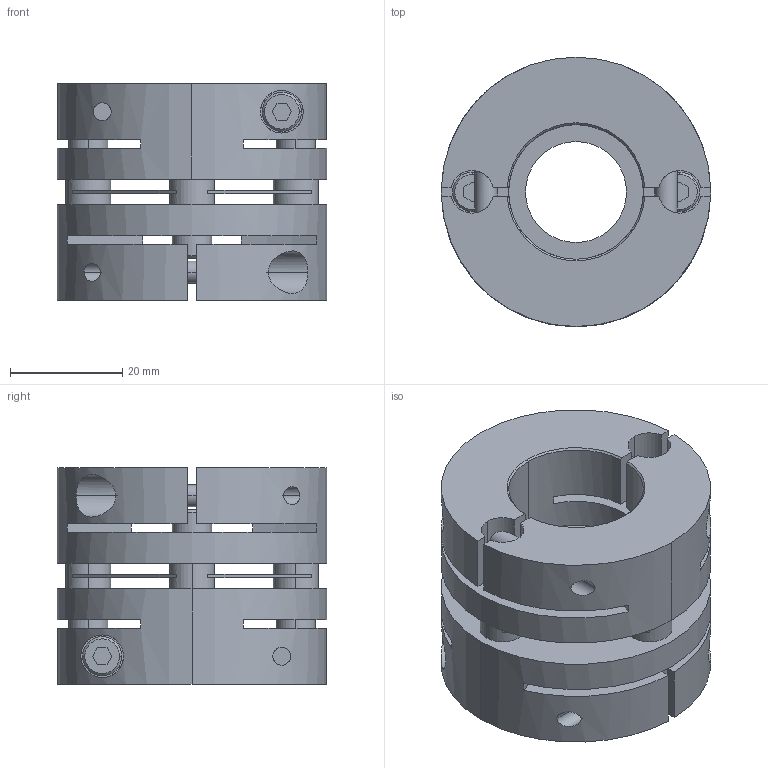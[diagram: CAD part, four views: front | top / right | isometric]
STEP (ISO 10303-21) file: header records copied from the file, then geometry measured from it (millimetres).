
FILE_DESCRIPTION((''),'2;1');
FILE_NAME('LAS-48C-20×24.stp','2011-08-09T17:06:37',(''),(''),'AutoCAD STEP 2000i','AutoCAD 2000i',', , ');
FILE_SCHEMA(('CONFIG_CONTROL_DESIGN'));
Length unit declared in the file: millimetre
Products named in the file (7): LAS-48C-19×19; 忣兜1; LA-4802-D19-1; LA-4802-D19; LA-4802-D12-1; LA-4802-D12; LAS48-ITA
Assembly tree (6 placements, depth 2):
  LAS-48C-19×19
    忣兜1
    LA-4802-D19-1
    LA-4802-D19
    LA-4802-D12-1
    LA-4802-D12
    LAS48-ITA
Bounding box: 48 x 48 x 38.6 mm (x, y, z)
Volume: 43888.7 mm3; surface area: 21296 mm2
Topology: 1 solids, 1 shells, 224 faces, 612 edges, 400 vertices
Faces by surface type: plane 112, cylinder 84, cone 28
Entity records: 8075 total; most frequent: CARTESIAN_POINT 2043, DIRECTION 1262, ORIENTED_EDGE 1224, EDGE_CURVE 612, AXIS2_PLACEMENT_3D 459, VERTEX_POINT 400, VECTOR 344, LINE 344
